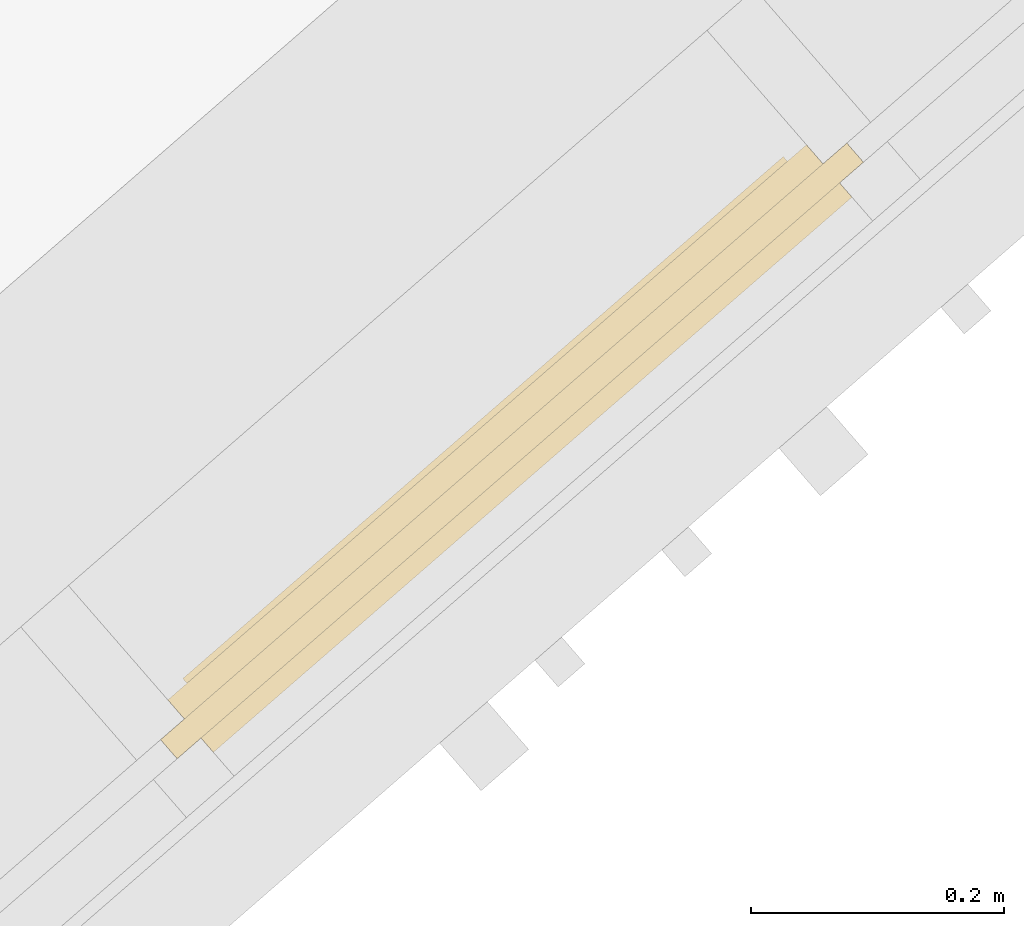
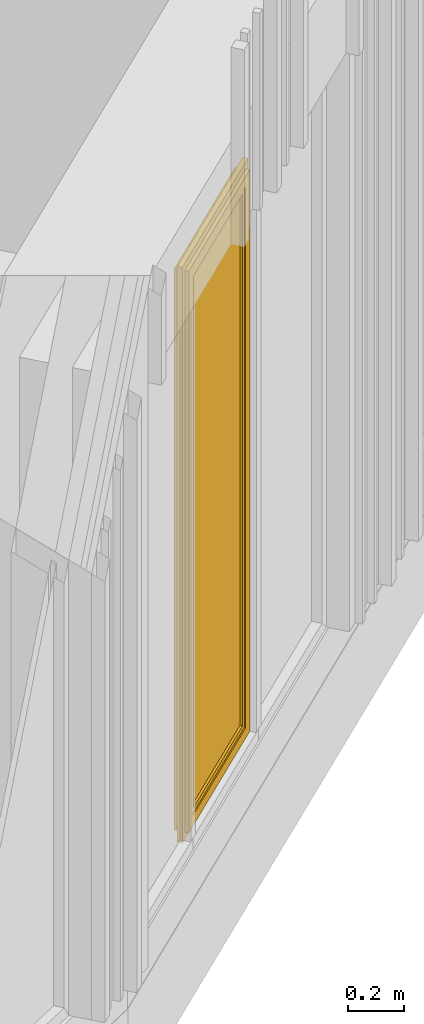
# One storey, part 104 of 124: 1 window, 1 element without a shape of its own.
"""IFC2X3 building model written with IfcOpenShell, lengths in millimetres."""

from ifc_helpers import new_model, entity, si_unit, converted_unit, derived_unit, money_unit, direction, frame, origin_with_axes, place, context, subcontext, project, spatial, polyline, outline, extrude, material, material_list, type_object, element, aggregate, save


model = new_model("IFC2X3")

# Units and contexts
model_context = context("Model", 3, precision=1e-05, world=origin_with_axes(), true_north=direction((0.0, 1.0)))
body_context = subcontext(model_context, "Body", "Model", "MODEL_VIEW")
ifc_project = project(units=[si_unit("LENGTHUNIT", "METRE", prefix="MILLI"), si_unit("AREAUNIT", "SQUARE_METRE"), si_unit("VOLUMEUNIT", "CUBIC_METRE"), converted_unit("PLANEANGLEUNIT", "DEGREE", entity("IfcPlaneAngleMeasure", 0.0174532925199), si_unit("PLANEANGLEUNIT", "RADIAN"), dimensions=[0, 0, 0, 0, 0, 0, 0]), si_unit("SOLIDANGLEUNIT", "STERADIAN"), money_unit("EUR"), converted_unit("TIMEUNIT", "Year", entity("IfcTimeMeasure", 31556926.0), si_unit("TIMEUNIT", "SECOND"), dimensions=[0, 0, 1, 0, 0, 0, 0]), si_unit("MASSUNIT", "GRAM", prefix="KILO"), si_unit("THERMODYNAMICTEMPERATUREUNIT", "DEGREE_CELSIUS"), si_unit("LUMINOUSINTENSITYUNIT", "LUMEN"), si_unit("ENERGYUNIT", "JOULE", prefix="MEGA"), derived_unit("THERMALCONDUCTANCEUNIT", [(si_unit("POWERUNIT", "WATT"), 1), (si_unit("LENGTHUNIT", "METRE"), -1), (si_unit("THERMODYNAMICTEMPERATUREUNIT", "KELVIN"), -1)]), derived_unit("SPECIFICHEATCAPACITYUNIT", [(si_unit("ENERGYUNIT", "JOULE"), 1), (si_unit("MASSUNIT", "GRAM", prefix="KILO"), -1), (si_unit("THERMODYNAMICTEMPERATUREUNIT", "KELVIN"), -1)]), derived_unit("MASSDENSITYUNIT", [(si_unit("MASSUNIT", "GRAM", prefix="KILO"), 1), (si_unit("VOLUMEUNIT", "CUBIC_METRE"), -1)])], contexts=[model_context])

# Site, building, storey
site_placement = place(None, origin_with_axes())
site = spatial("IfcSite", under=ifc_project, at=site_placement, Name="Site", CompositionType="ELEMENT")
building_placement = place(site_placement, origin_with_axes())
building = spatial("IfcBuilding", under=site, at=building_placement, Name="Building", CompositionType="ELEMENT")
storey_placement = place(building_placement, frame((0.0, 0.0, -1615.0), z_axis=(0.0, 0.0, 1.0), x_axis=(1.0, 0.0, 0.0)))
storey = spatial("IfcBuildingStorey", under=building, at=storey_placement, Name="0  korrus", CompositionType="ELEMENT", Elevation=-1615.0)

# Curtain wall, window
curtain_wall_type = type_object("IfcCurtainWallType", Name="KLF-06", PredefinedType="NOTDEFINED")
curtain_wall_placement = place(storey_placement, frame((153469.056116, 78253.8889067, 0.0), z_axis=(0.0, 0.0, 1.0), x_axis=(1.0, 0.0, 0.0)))
curtain_wall = element("IfcCurtainWall", 1, at=curtain_wall_placement, inside=storey, type_object=curtain_wall_type, Name="Klaasfassaad")
ifc_material_1 = material(Name="Aluminium MUST")
ifc_material_2 = material(Name="Klaas")
ifc_material_list = material_list([ifc_material_1, ifc_material_1, ifc_material_1, ifc_material_1, ifc_material_1, ifc_material_1, ifc_material_1, ifc_material_1, ifc_material_1, ifc_material_1, ifc_material_1, ifc_material_1, ifc_material_1, ifc_material_1, ifc_material_1, ifc_material_1, ifc_material_2])
window_style = type_object("IfcWindowStyle", Name="720 x 2510 x 20", ConstructionType="NOTDEFINED", OperationType="NOTDEFINED", ParameterTakesPrecedence=False, Sizeable=False)
window_placement = place(curtain_wall_placement, frame((552.825754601, 480.562103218, 1275.00000939), z_axis=(0.0, 0.0, 1.0), x_axis=(-0.754710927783, -0.656057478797, 0.0)))
window = element("IfcWindow", 2, at=window_placement, type_object=window_style, material=ifc_material_list, Name="Klaasfassaadi integreeritud aken * CW Window 22", context=body_context, shape_type="SweptSolid", body=[
    extrude(outline(polyline([(335.000015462, 1225.00000231), (-335.000018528, 1225.00000231), (-290.000018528, 1180.00000231), (290.000015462, 1180.00000231), (335.000015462, 1225.00000231)])), frame((0.0, 20.0, 0.0), z_axis=(0.0, 1.0, 0.0), x_axis=(1.0, 0.0, 0.0)), (0.0, 0.0, 1.0), 5.00000000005),
    extrude(outline(polyline([(-335.000018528, 1225.00000231), (-335.000018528, -1225.00000231), (-290.000018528, -1180.00000231), (-290.000018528, 1180.00000231), (-335.000018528, 1225.00000231)])), frame((0.0, 20.0, 0.0), z_axis=(0.0, 1.0, 0.0), x_axis=(1.0, 0.0, 0.0)), (0.0, 0.0, 1.0), 5.00000000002),
    extrude(outline(polyline([(335.000015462, -1225.00000231), (290.000015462, -1180.00000231), (-290.000018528, -1180.00000231), (-335.000018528, -1225.00000231), (335.000015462, -1225.00000231)])), frame((0.0, 20.0, 0.0), z_axis=(0.0, 1.0, 0.0), x_axis=(1.0, 0.0, 0.0)), (0.0, 0.0, 1.0), 5.00000000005),
    extrude(outline(polyline([(335.000015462, 1225.00000231), (290.000015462, 1180.00000231), (290.000015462, -1180.00000231), (335.000015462, -1225.00000231), (335.000015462, 1225.00000231)])), frame((0.0, 20.0, 0.0), z_axis=(0.0, 1.0, 0.0), x_axis=(1.0, 0.0, 0.0)), (0.0, 0.0, 1.0), 5.00000000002),
    extrude(outline(polyline([(335.000015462, 1225.00000231), (-335.000018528, 1225.00000231), (-315.000018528, 1205.00000231), (315.000015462, 1205.00000231), (335.000015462, 1225.00000231)])), frame((0.0, -30.0, 0.0), z_axis=(0.0, 1.0, 0.0), x_axis=(1.0, 0.0, 0.0)), (0.0, 0.0, 1.0), 50.0),
    extrude(outline(polyline([(-335.000018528, 1225.00000231), (-335.000018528, -1225.00000231), (-315.000018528, -1205.00000231), (-315.000018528, 1205.00000231), (-335.000018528, 1225.00000231)])), frame((0.0, -30.0, 0.0), z_axis=(0.0, 1.0, 0.0), x_axis=(1.0, 0.0, 0.0)), (0.0, 0.0, 1.0), 50.0),
    extrude(outline(polyline([(335.000015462, -1225.00000231), (315.000015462, -1205.00000231), (-315.000018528, -1205.00000231), (-335.000018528, -1225.00000231), (335.000015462, -1225.00000231)])), frame((0.0, -30.0, 0.0), z_axis=(0.0, 1.0, 0.0), x_axis=(1.0, 0.0, 0.0)), (0.0, 0.0, 1.0), 50.0),
    extrude(outline(polyline([(335.000015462, 1225.00000231), (315.000015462, 1205.00000231), (315.000015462, -1205.00000231), (335.000015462, -1225.00000231), (335.000015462, 1225.00000231)])), frame((0.0, -30.0, 0.0), z_axis=(0.0, 1.0, 0.0), x_axis=(1.0, 0.0, 0.0)), (0.0, 0.0, 1.0), 50.0),
    extrude(outline(polyline([(359.999995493, 1254.99999136), (-360.000007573, 1254.99999136), (-335.000018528, 1225.00000231), (335.000015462, 1225.00000231), (359.999995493, 1254.99999136)])), frame((0.0, -10.0, 0.0), z_axis=(0.0, 1.0, 0.0), x_axis=(1.0, 0.0, 0.0)), (0.0, 0.0, 1.0), 20.0),
    extrude(outline(polyline([(-360.000007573, 1254.99999136), (-360.000007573, -1254.99999136), (-335.000018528, -1225.00000231), (-335.000018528, 1225.00000231), (-360.000007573, 1254.99999136)])), frame((0.0, -10.0, 0.0), z_axis=(0.0, 1.0, 0.0), x_axis=(1.0, 0.0, 0.0)), (0.0, 0.0, 1.0), 20.0),
    extrude(outline(polyline([(-360.000007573, -1254.99999136), (359.999995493, -1254.99999136), (335.000015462, -1225.00000231), (-335.000018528, -1225.00000231), (-360.000007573, -1254.99999136)])), frame((0.0, -10.0, 0.0), z_axis=(0.0, 1.0, 0.0), x_axis=(1.0, 0.0, 0.0)), (0.0, 0.0, 1.0), 20.0),
    extrude(outline(polyline([(359.999995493, -1254.99999136), (359.999995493, 1254.99999136), (335.000015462, 1225.00000231), (335.000015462, -1225.00000231), (359.999995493, -1254.99999136)])), frame((0.0, -10.0, 0.0), z_axis=(0.0, 1.0, 0.0), x_axis=(1.0, 0.0, 0.0)), (0.0, 0.0, 1.0), 20.0),
    extrude(outline(polyline([(270.000015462, 1160.00000231), (270.000015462, -1160.00000231), (315.000015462, -1205.00000231), (315.000015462, 1205.00000231), (270.000015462, 1160.00000231)])), frame((0.0, -35.0, 0.0), z_axis=(0.0, 1.0, 0.0), x_axis=(1.0, 0.0, 0.0)), (0.0, 0.0, 1.0), 55.0),
    extrude(outline(polyline([(-315.000018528, 1205.00000231), (-315.000018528, -1205.00000231), (-270.000018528, -1160.00000231), (-270.000018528, 1160.00000231), (-315.000018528, 1205.00000231)])), frame((0.0, -35.0, 0.0), z_axis=(0.0, 1.0, 0.0), x_axis=(1.0, 0.0, 0.0)), (0.0, 0.0, 1.0), 55.0),
    extrude(outline(polyline([(-315.000018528, 1205.00000231), (-270.000018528, 1160.00000231), (270.000015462, 1160.00000231), (315.000015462, 1205.00000231), (-315.000018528, 1205.00000231)])), frame((0.0, -35.0, 0.0), z_axis=(0.0, 1.0, 0.0), x_axis=(1.0, 0.0, 0.0)), (0.0, 0.0, 1.0), 55.0),
    extrude(outline(polyline([(315.000015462, -1205.00000231), (270.000015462, -1160.00000231), (-270.000018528, -1160.00000231), (-315.000018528, -1205.00000231), (315.000015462, -1205.00000231)])), frame((0.0, -35.0, 0.0), z_axis=(0.0, 1.0, 0.0), x_axis=(1.0, 0.0, 0.0)), (0.0, 0.0, 1.0), 55.0),
    extrude(outline(polyline([(270.000015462, 1160.00000231), (-270.000018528, 1160.00000231), (-270.000018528, -1160.00000231), (270.000015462, -1160.00000231), (270.000015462, 1160.00000231)])), frame((0.0, -6.00000000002, 0.0), z_axis=(0.0, 1.0, 0.0), x_axis=(1.0, 0.0, 0.0)), (0.0, 0.0, 1.0), 16.0),
])
aggregate(curtain_wall, [window])

save(model, "model.ifc")
